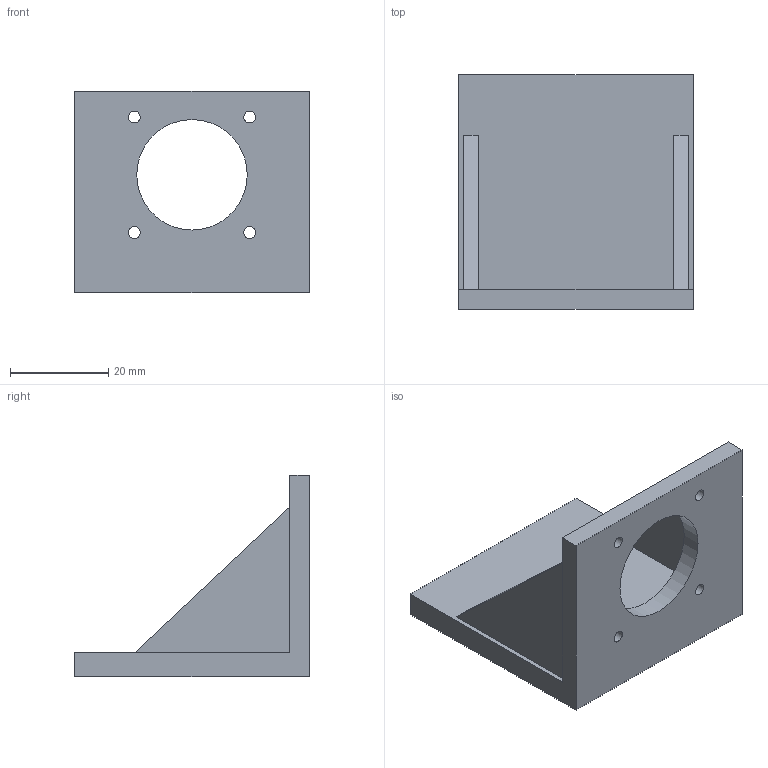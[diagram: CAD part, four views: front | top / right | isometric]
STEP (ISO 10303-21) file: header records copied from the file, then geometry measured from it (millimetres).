
FILE_DESCRIPTION(('FreeCAD Model'),'2;1');
FILE_NAME('Open CASCADE Shape Model','2026-11-24T19:32:43',('FreeCAD'),( 'FreeCAD'),'Open CASCADE STEP processor 7.6','FreeCAD','Unknown');
FILE_SCHEMA(('AUTOMOTIVE_DESIGN { 1 0 10303 214 1 1 1 1 }'));
Length unit declared in the file: millimetre
Products named in the file (1): Open CASCADE STEP translator 7.6 1
Bounding box: 47.8 x 47.8 x 41 mm (x, y, z)
Volume: 17989.6 mm3; surface area: 11668.8 mm2
Topology: 1 solids, 1 shells, 127 faces, 231 edges, 142 vertices
Faces by surface type: plane 50, cylinder 41, cone 36
Full cylindrical faces by diameter (mm): 2.4 x4, 4.9 x36, 22.5 x1
Entity records: 6139 total; most frequent: DIRECTION 1038, CARTESIAN_POINT 1017, LINE 469, VECTOR 469, ORIENTED_EDGE 462, PCURVE 462, DEFINITIONAL_REPRESENTATION 462, AXIS2_PLACEMENT_3D 246
